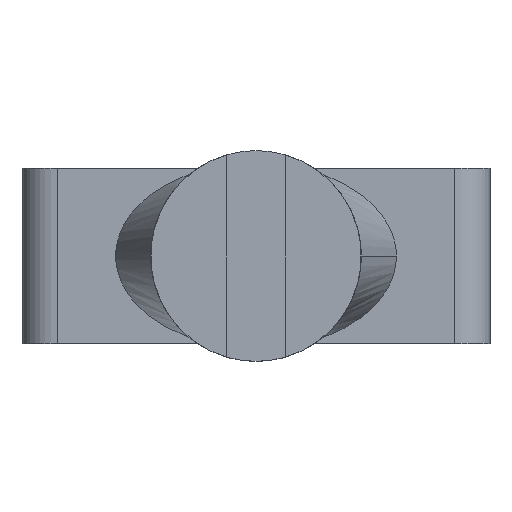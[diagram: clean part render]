
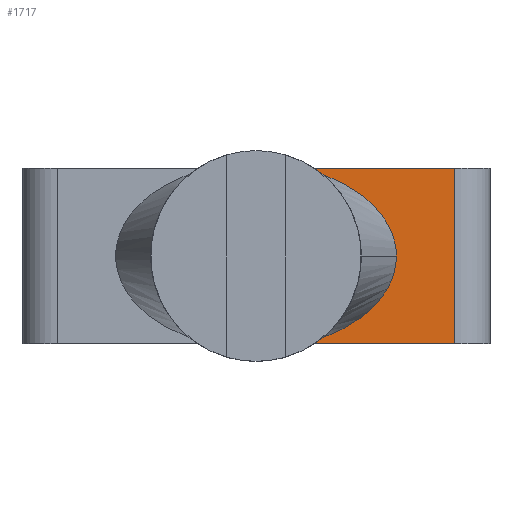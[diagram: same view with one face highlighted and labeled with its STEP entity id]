
A CAD part, front view. The second image highlights one B-rep face of the part: STEP entity #1717.
In plain terms, the highlighted planar face has unit normal (0, -1, 0).
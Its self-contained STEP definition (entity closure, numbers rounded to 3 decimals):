
#33 = CYLINDRICAL_SURFACE('',#34,0.9);
#34 = AXIS2_PLACEMENT_3D('',#35,#36,#37);
#35 = CARTESIAN_POINT('',(-68.,-6.2,80.1));
#36 = DIRECTION('',(0.,1.,0.));
#37 = DIRECTION('',(0.,-0.,1.));
#124 = PLANE('',#125);
#125 = AXIS2_PLACEMENT_3D('',#126,#127,#128);
#126 = CARTESIAN_POINT('',(-70.,5.,80.85));
#127 = DIRECTION('',(0.,0.,1.));
#128 = DIRECTION('',(1.,0.,0.));
#179 = PLANE('',#180);
#180 = AXIS2_PLACEMENT_3D('',#181,#182,#183);
#181 = CARTESIAN_POINT('',(-70.,5.,79.35));
#182 = DIRECTION('',(0.,0.,1.));
#183 = DIRECTION('',(1.,0.,0.));
#220 = VERTEX_POINT('',#221);
#221 = CARTESIAN_POINT('',(-67.503,5.,79.35));
#240 = EDGE_CURVE('',#241,#220,#243,.T.);
#241 = VERTEX_POINT('',#242);
#242 = CARTESIAN_POINT('',(-67.503,5.,80.85));
#243 = SURFACE_CURVE('',#244,(#249,#256),.PCURVE_S1.);
#244 = CIRCLE('',#245,0.9);
#245 = AXIS2_PLACEMENT_3D('',#246,#247,#248);
#246 = CARTESIAN_POINT('',(-68.,5.,80.1));
#247 = DIRECTION('',(0.,1.,0.));
#248 = DIRECTION('',(0.,-0.,1.));
#249 = PCURVE('',#33,#250);
#250 = DEFINITIONAL_REPRESENTATION('',(#251),#255);
#251 = LINE('',#252,#253);
#252 = CARTESIAN_POINT('',(0.,11.2));
#253 = VECTOR('',#254,1.);
#254 = DIRECTION('',(1.,0.));
#255 = ( GEOMETRIC_REPRESENTATION_CONTEXT(2) 
PARAMETRIC_REPRESENTATION_CONTEXT() REPRESENTATION_CONTEXT('2D SPACE',''
  ) );
#256 = PCURVE('',#257,#262);
#257 = PLANE('',#258);
#258 = AXIS2_PLACEMENT_3D('',#259,#260,#261);
#259 = CARTESIAN_POINT('',(-70.,5.,79.35));
#260 = DIRECTION('',(0.,1.,0.));
#261 = DIRECTION('',(0.,0.,1.));
#262 = DEFINITIONAL_REPRESENTATION('',(#263),#267);
#263 = CIRCLE('',#264,0.9);
#264 = AXIS2_PLACEMENT_2D('',#265,#266);
#265 = CARTESIAN_POINT('',(0.75,2.));
#266 = DIRECTION('',(1.,0.));
#267 = ( GEOMETRIC_REPRESENTATION_CONTEXT(2) 
PARAMETRIC_REPRESENTATION_CONTEXT() REPRESENTATION_CONTEXT('2D SPACE',''
  ) );
#1546 = EDGE_CURVE('',#241,#1547,#1549,.T.);
#1547 = VERTEX_POINT('',#1548);
#1548 = CARTESIAN_POINT('',(-66.3,5.,80.85));
#1549 = SURFACE_CURVE('',#1550,(#1554,#1561),.PCURVE_S1.);
#1550 = LINE('',#1551,#1552);
#1551 = CARTESIAN_POINT('',(-70.,5.,80.85));
#1552 = VECTOR('',#1553,1.);
#1553 = DIRECTION('',(1.,0.,0.));
#1554 = PCURVE('',#124,#1555);
#1555 = DEFINITIONAL_REPRESENTATION('',(#1556),#1560);
#1556 = LINE('',#1557,#1558);
#1557 = CARTESIAN_POINT('',(0.,0.));
#1558 = VECTOR('',#1559,1.);
#1559 = DIRECTION('',(1.,0.));
#1560 = ( GEOMETRIC_REPRESENTATION_CONTEXT(2) 
PARAMETRIC_REPRESENTATION_CONTEXT() REPRESENTATION_CONTEXT('2D SPACE',''
  ) );
#1561 = PCURVE('',#257,#1562);
#1562 = DEFINITIONAL_REPRESENTATION('',(#1563),#1567);
#1563 = LINE('',#1564,#1565);
#1564 = CARTESIAN_POINT('',(1.5,0.));
#1565 = VECTOR('',#1566,1.);
#1566 = DIRECTION('',(0.,1.));
#1567 = ( GEOMETRIC_REPRESENTATION_CONTEXT(2) 
PARAMETRIC_REPRESENTATION_CONTEXT() REPRESENTATION_CONTEXT('2D SPACE',''
  ) );
#1590 = CYLINDRICAL_SURFACE('',#1591,0.3);
#1591 = AXIS2_PLACEMENT_3D('',#1592,#1593,#1594);
#1592 = CARTESIAN_POINT('',(-66.3,5.3,79.35));
#1593 = DIRECTION('',(0.,0.,1.));
#1594 = DIRECTION('',(1.,0.,-0.));
#1717 = ADVANCED_FACE('',(#1718),#257,.F.);
#1718 = FACE_BOUND('',#1719,.F.);
#1719 = EDGE_LOOP('',(#1720,#1743,#1744,#1745));
#1720 = ORIENTED_EDGE('',*,*,#1721,.F.);
#1721 = EDGE_CURVE('',#220,#1722,#1724,.T.);
#1722 = VERTEX_POINT('',#1723);
#1723 = CARTESIAN_POINT('',(-66.3,5.,79.35));
#1724 = SURFACE_CURVE('',#1725,(#1729,#1736),.PCURVE_S1.);
#1725 = LINE('',#1726,#1727);
#1726 = CARTESIAN_POINT('',(-70.,5.,79.35));
#1727 = VECTOR('',#1728,1.);
#1728 = DIRECTION('',(1.,0.,0.));
#1729 = PCURVE('',#257,#1730);
#1730 = DEFINITIONAL_REPRESENTATION('',(#1731),#1735);
#1731 = LINE('',#1732,#1733);
#1732 = CARTESIAN_POINT('',(0.,0.));
#1733 = VECTOR('',#1734,1.);
#1734 = DIRECTION('',(0.,1.));
#1735 = ( GEOMETRIC_REPRESENTATION_CONTEXT(2) 
PARAMETRIC_REPRESENTATION_CONTEXT() REPRESENTATION_CONTEXT('2D SPACE',''
  ) );
#1736 = PCURVE('',#179,#1737);
#1737 = DEFINITIONAL_REPRESENTATION('',(#1738),#1742);
#1738 = LINE('',#1739,#1740);
#1739 = CARTESIAN_POINT('',(0.,0.));
#1740 = VECTOR('',#1741,1.);
#1741 = DIRECTION('',(1.,0.));
#1742 = ( GEOMETRIC_REPRESENTATION_CONTEXT(2) 
PARAMETRIC_REPRESENTATION_CONTEXT() REPRESENTATION_CONTEXT('2D SPACE',''
  ) );
#1743 = ORIENTED_EDGE('',*,*,#240,.F.);
#1744 = ORIENTED_EDGE('',*,*,#1546,.T.);
#1745 = ORIENTED_EDGE('',*,*,#1746,.F.);
#1746 = EDGE_CURVE('',#1722,#1547,#1747,.T.);
#1747 = SURFACE_CURVE('',#1748,(#1752,#1759),.PCURVE_S1.);
#1748 = LINE('',#1749,#1750);
#1749 = CARTESIAN_POINT('',(-66.3,5.,79.35));
#1750 = VECTOR('',#1751,1.);
#1751 = DIRECTION('',(0.,0.,1.));
#1752 = PCURVE('',#257,#1753);
#1753 = DEFINITIONAL_REPRESENTATION('',(#1754),#1758);
#1754 = LINE('',#1755,#1756);
#1755 = CARTESIAN_POINT('',(0.,3.7));
#1756 = VECTOR('',#1757,1.);
#1757 = DIRECTION('',(1.,0.));
#1758 = ( GEOMETRIC_REPRESENTATION_CONTEXT(2) 
PARAMETRIC_REPRESENTATION_CONTEXT() REPRESENTATION_CONTEXT('2D SPACE',''
  ) );
#1759 = PCURVE('',#1590,#1760);
#1760 = DEFINITIONAL_REPRESENTATION('',(#1761),#1765);
#1761 = LINE('',#1762,#1763);
#1762 = CARTESIAN_POINT('',(-1.571,0.));
#1763 = VECTOR('',#1764,1.);
#1764 = DIRECTION('',(-0.,1.));
#1765 = ( GEOMETRIC_REPRESENTATION_CONTEXT(2) 
PARAMETRIC_REPRESENTATION_CONTEXT() REPRESENTATION_CONTEXT('2D SPACE',''
  ) );
